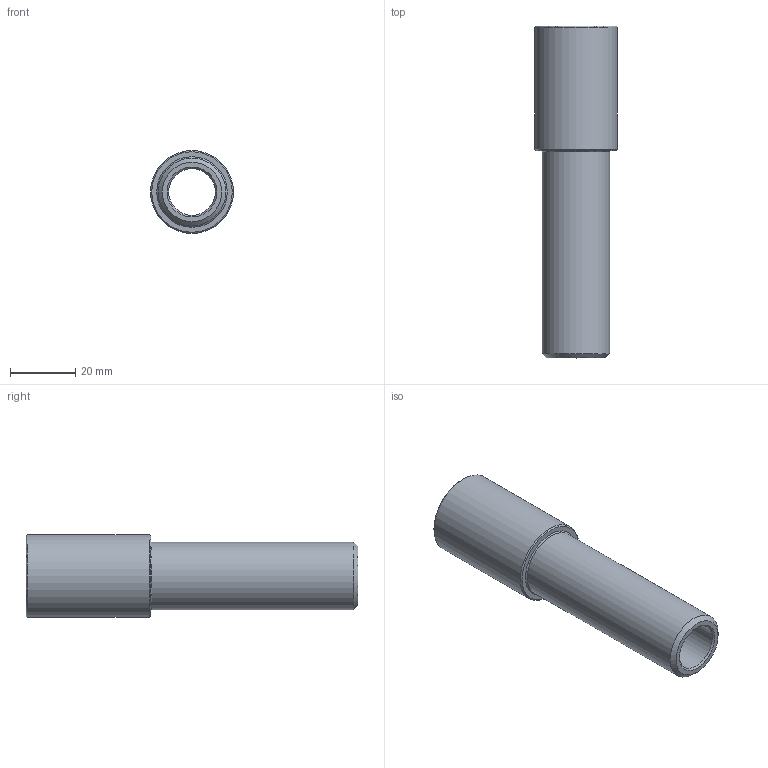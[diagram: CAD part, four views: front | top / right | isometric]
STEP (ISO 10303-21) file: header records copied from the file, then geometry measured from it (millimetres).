
FILE_DESCRIPTION(/* description */ (''),/* implementation_level */ '2;1');
FILE_NAME(/* name */ 'C:/Users/drich/Desktop/EP12X4 v1.step',/* time_stamp */ '2019-11-18T14:46:10-06:00',/* author */ (''),/* organization */ (''),/* preprocessor_version */ 'ST-DEVELOPER v18',/* originating_system */ 'Autodesk Translation Framework v8.12.0.6',/* authorisation */ '');
FILE_SCHEMA (('AUTOMOTIVE_DESIGN { 1 0 10303 214 3 1 1 }'));
Length unit declared in the file: inch
Products named in the file (2): EP12X4; EP12X4_1
Assembly tree (1 placements, depth 2):
  EP12X4
    EP12X4_1
Bounding box: 25.4 x 101.6 x 25.4 mm (x, y, z)
Volume: 21867.7 mm3; surface area: 12714.6 mm2
Topology: 1 solids, 1 shells, 23 faces, 55 edges, 37 vertices
Faces by surface type: plane 11, cone 7, cylinder 5
Full cylindrical faces by diameter (mm): 14.275 x1, 17.145 x1, 18.901 x1, 20.813 x1, 25.4 x1
Entity records: 740 total; most frequent: CARTESIAN_POINT 132, DIRECTION 124, ORIENTED_EDGE 110, EDGE_CURVE 55, AXIS2_PLACEMENT_3D 50, VERTEX_POINT 37, EDGE_LOOP 28, LINE 24
